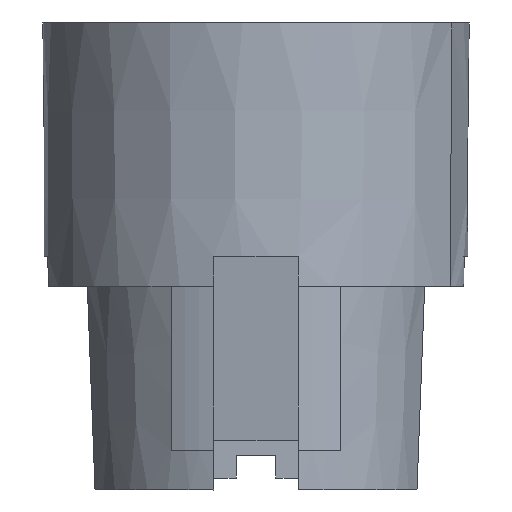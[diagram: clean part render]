
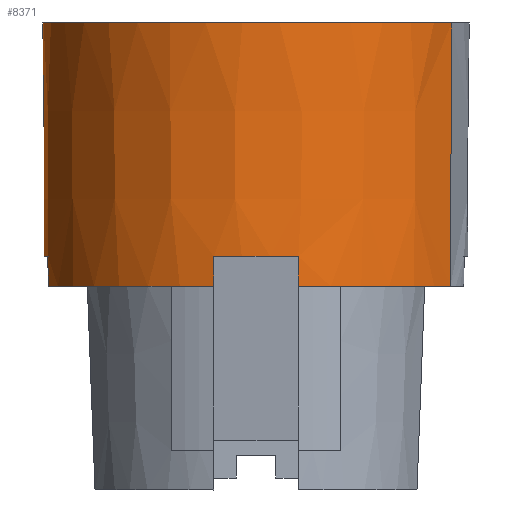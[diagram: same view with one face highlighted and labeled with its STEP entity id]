
A CAD part, front view. The second image highlights one B-rep face of the part: STEP entity #8371.
In plain terms, the highlighted conical face has half-angle 0.324 degrees and reference radius 21.5 mm.
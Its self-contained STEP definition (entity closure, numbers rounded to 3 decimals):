
#661= CARTESIAN_POINT(' ',(-19.693,8.627,0.));
#662= VERTEX_POINT(' ',#661);
#666= CARTESIAN_POINT(' ',(19.693,-8.627,0.));
#667= VERTEX_POINT(' ',#666);
#681= CARTESIAN_POINT(' ',(0.,0.,0.));
#686= DIRECTION(' ',(0.,0.,-1.));
#691= DIRECTION(' ',(0.916,-0.401,0.));
#696= AXIS2_PLACEMENT_3D(' ',#681,#686,#691);
#701= CIRCLE(' ',#696,21.5);
#706= EDGE_CURVE(' ',#667,#662,#701,.T.);
#7561= CARTESIAN_POINT(' ',(19.556,-8.567,-26.5));
#7566= DIRECTION(' ',(0.005,-0.002,1.));
#7571= VECTOR(' ',#7566,1.);
#7576= LINE(' ',#7561,#7571);
#7581= CARTESIAN_POINT(' ',(19.556,-8.567,-26.5));
#7582= VERTEX_POINT(' ',#7581);
#7586= EDGE_CURVE(' ',#7582,#667,#7576,.T.);
#7921= CARTESIAN_POINT(' ',(-19.556,8.567,-26.5));
#7922= VERTEX_POINT(' ',#7921);
#7936= CARTESIAN_POINT(' ',(-19.693,8.627,0.));
#7941= DIRECTION(' ',(0.005,-0.002,-1.));
#7946= VECTOR(' ',#7941,1.);
#7951= LINE(' ',#7936,#7946);
#7956= EDGE_CURVE(' ',#662,#7922,#7951,.T.);
#7986= CARTESIAN_POINT(' ',(0.,0.,0.));
#7991= DIRECTION(' ',(0.,0.,1.));
#7996= DIRECTION(' ',(0.916,-0.401,0.));
#8001= AXIS2_PLACEMENT_3D(' ',#7986,#7991,#7996);
#8006= CONICAL_SURFACE(' ',#8001,21.5,0.324);
#8011= ORIENTED_EDGE(' ',*,*,#7956,.T.);
#8016= CARTESIAN_POINT(' ',(0.,0.,-26.499));
#8021= DIRECTION(' ',(0.,0.,-1.));
#8026= DIRECTION(' ',(-0.98,0.199,0.));
#8031= AXIS2_PLACEMENT_3D(' ',#8016,#8021,#8026);
#8036= CIRCLE(' ',#8031,21.35);
#8041= CARTESIAN_POINT(' ',(-20.923,4.25,-26.5));
#8042= VERTEX_POINT(' ',#8041);
#8046= EDGE_CURVE(' ',#8042,#7922,#8036,.T.);
#8051= ORIENTED_EDGE(' ',*,*,#8046,.F.);
#8056= CARTESIAN_POINT(' ',(-20.923,4.25,-26.5));
#8061= DIRECTION(' ',(-0.006,0.,1.));
#8066= VECTOR(' ',#8061,1.);
#8071= LINE(' ',#8056,#8066);
#8076= CARTESIAN_POINT(' ',(-20.94,4.25,-23.5));
#8077= VERTEX_POINT(' ',#8076);
#8081= EDGE_CURVE(' ',#8042,#8077,#8071,.T.);
#8086= ORIENTED_EDGE(' ',*,*,#8081,.T.);
#8091= CARTESIAN_POINT(' ',(0.,0.,-23.5));
#8096= DIRECTION(' ',(0.,0.,1.));
#8101= DIRECTION(' ',(-0.98,0.199,0.));
#8106= AXIS2_PLACEMENT_3D(' ',#8091,#8096,#8101);
#8111= CIRCLE(' ',#8106,21.367);
#8116= CARTESIAN_POINT(' ',(-20.94,-4.25,-23.5));
#8117= VERTEX_POINT(' ',#8116);
#8121= EDGE_CURVE(' ',#8077,#8117,#8111,.T.);
#8126= ORIENTED_EDGE(' ',*,*,#8121,.T.);
#8131= CARTESIAN_POINT(' ',(-20.94,-4.25,-23.5));
#8136= DIRECTION(' ',(0.006,0.,-1.));
#8141= VECTOR(' ',#8136,1.);
#8146= LINE(' ',#8131,#8141);
#8151= CARTESIAN_POINT(' ',(-20.923,-4.25,-26.5));
#8152= VERTEX_POINT(' ',#8151);
#8156= EDGE_CURVE(' ',#8117,#8152,#8146,.T.);
#8161= ORIENTED_EDGE(' ',*,*,#8156,.T.);
#8166= CARTESIAN_POINT(' ',(0.,0.,-26.499));
#8171= DIRECTION(' ',(0.,0.,-1.));
#8176= DIRECTION(' ',(-0.199,-0.98,0.));
#8181= AXIS2_PLACEMENT_3D(' ',#8166,#8171,#8176);
#8186= CIRCLE(' ',#8181,21.35);
#8191= CARTESIAN_POINT(' ',(-4.25,-20.923,-26.5));
#8192= VERTEX_POINT(' ',#8191);
#8196= EDGE_CURVE(' ',#8192,#8152,#8186,.T.);
#8201= ORIENTED_EDGE(' ',*,*,#8196,.F.);
#8206= CARTESIAN_POINT(' ',(-4.25,-20.923,-26.5));
#8211= DIRECTION(' ',(0.,-0.006,1.));
#8216= VECTOR(' ',#8211,1.);
#8221= LINE(' ',#8206,#8216);
#8226= CARTESIAN_POINT(' ',(-4.25,-20.94,-23.5));
#8227= VERTEX_POINT(' ',#8226);
#8231= EDGE_CURVE(' ',#8192,#8227,#8221,.T.);
#8236= ORIENTED_EDGE(' ',*,*,#8231,.T.);
#8241= CARTESIAN_POINT(' ',(0.,0.,-23.5));
#8246= DIRECTION(' ',(0.,0.,1.));
#8251= DIRECTION(' ',(-0.199,-0.98,0.));
#8256= AXIS2_PLACEMENT_3D(' ',#8241,#8246,#8251);
#8261= CIRCLE(' ',#8256,21.367);
#8266= CARTESIAN_POINT(' ',(4.25,-20.94,-23.5));
#8267= VERTEX_POINT(' ',#8266);
#8271= EDGE_CURVE(' ',#8227,#8267,#8261,.T.);
#8276= ORIENTED_EDGE(' ',*,*,#8271,.T.);
#8281= CARTESIAN_POINT(' ',(4.25,-20.94,-23.5));
#8286= DIRECTION(' ',(0.,0.006,-1.));
#8291= VECTOR(' ',#8286,1.);
#8296= LINE(' ',#8281,#8291);
#8301= CARTESIAN_POINT(' ',(4.25,-20.923,-26.5));
#8302= VERTEX_POINT(' ',#8301);
#8306= EDGE_CURVE(' ',#8267,#8302,#8296,.T.);
#8311= ORIENTED_EDGE(' ',*,*,#8306,.T.);
#8316= CARTESIAN_POINT(' ',(0.,0.,-26.499));
#8321= DIRECTION(' ',(0.,0.,-1.));
#8326= DIRECTION(' ',(0.916,-0.401,0.));
#8331= AXIS2_PLACEMENT_3D(' ',#8316,#8321,#8326);
#8336= CIRCLE(' ',#8331,21.35);
#8341= EDGE_CURVE(' ',#7582,#8302,#8336,.T.);
#8346= ORIENTED_EDGE(' ',*,*,#8341,.F.);
#8351= ORIENTED_EDGE(' ',*,*,#7586,.T.);
#8356= ORIENTED_EDGE(' ',*,*,#706,.T.);
#8361= EDGE_LOOP(' ',(#8011,#8051,#8086,#8126,#8161,#8201,#8236,#8276,#8311,#8346,#8351,#8356));
#8366= FACE_OUTER_BOUND(' ',#8361,.T.);
#8371= ADVANCED_FACE(' ',(#8366),#8006,.T.);
